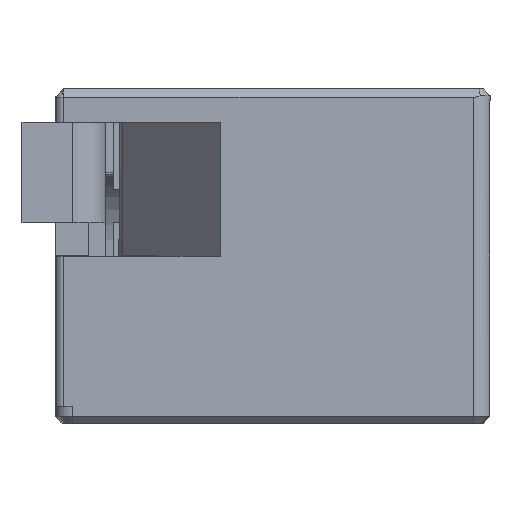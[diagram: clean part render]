
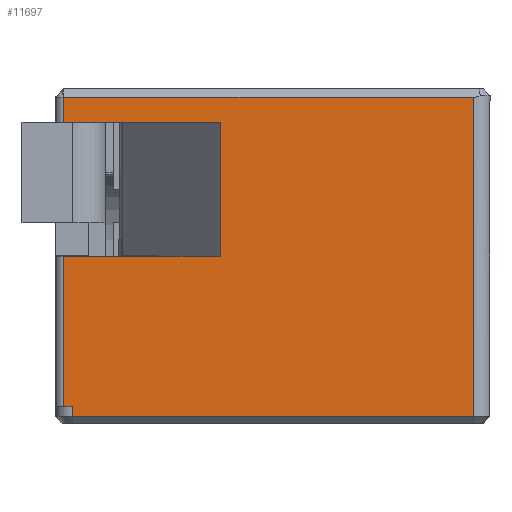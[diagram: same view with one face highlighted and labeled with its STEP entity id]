
A CAD part, left-side view. The second image highlights one B-rep face of the part: STEP entity #11697.
In plain terms, the highlighted planar face has unit normal (-1, 0, 0).
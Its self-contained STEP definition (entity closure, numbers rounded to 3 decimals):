
#681=LINE('',#17147,#1964);
#713=LINE('',#17223,#1996);
#751=LINE('',#17316,#2034);
#760=LINE('',#17330,#2043);
#852=LINE('',#17573,#2135);
#856=LINE('',#17589,#2139);
#1014=LINE('',#17951,#2297);
#1301=LINE('',#18571,#2584);
#1302=LINE('',#18575,#2585);
#1379=LINE('',#18781,#2662);
#1380=LINE('',#18783,#2663);
#1381=LINE('',#18784,#2664);
#1964=VECTOR('',#13878,10.);
#1996=VECTOR('',#13936,10.);
#2034=VECTOR('',#14000,10.);
#2043=VECTOR('',#14017,10.);
#2135=VECTOR('',#14247,10.);
#2139=VECTOR('',#14261,10.);
#2297=VECTOR('',#14615,10.);
#2584=VECTOR('',#15178,10.);
#2585=VECTOR('',#15183,10.);
#2662=VECTOR('',#15392,10.);
#2663=VECTOR('',#15393,10.);
#2664=VECTOR('',#15394,10.);
#3171=PLANE('',#12572);
#3727=FACE_OUTER_BOUND('',#4353,.T.);
#4353=EDGE_LOOP('',(#10183,#10184,#10185,#10186,#10187,#10188,#10189,#10190,
#10191,#10192,#10193,#10194));
#5205=VERTEX_POINT('',#17144);
#5206=VERTEX_POINT('',#17146);
#5236=VERTEX_POINT('',#17221);
#5237=VERTEX_POINT('',#17222);
#5279=VERTEX_POINT('',#17315);
#5359=VERTEX_POINT('',#17570);
#5363=VERTEX_POINT('',#17588);
#5469=VERTEX_POINT('',#17949);
#5664=VERTEX_POINT('',#18569);
#5665=VERTEX_POINT('',#18573);
#5718=VERTEX_POINT('',#18780);
#5719=VERTEX_POINT('',#18782);
#6444=EDGE_CURVE('',#5206,#5205,#681,.T.);
#6483=EDGE_CURVE('',#5236,#5237,#713,.T.);
#6527=EDGE_CURVE('',#5236,#5279,#751,.T.);
#6536=EDGE_CURVE('',#5205,#5279,#760,.T.);
#6657=EDGE_CURVE('',#5359,#5206,#852,.T.);
#6664=EDGE_CURVE('',#5359,#5363,#856,.T.);
#6846=EDGE_CURVE('',#5237,#5469,#1014,.T.);
#7165=EDGE_CURVE('',#5664,#5469,#1301,.T.);
#7167=EDGE_CURVE('',#5665,#5664,#1302,.T.);
#7263=EDGE_CURVE('',#5718,#5665,#1379,.T.);
#7264=EDGE_CURVE('',#5719,#5718,#1380,.T.);
#7265=EDGE_CURVE('',#5363,#5719,#1381,.T.);
#10183=ORIENTED_EDGE('',*,*,#7165,.F.);
#10184=ORIENTED_EDGE('',*,*,#7167,.F.);
#10185=ORIENTED_EDGE('',*,*,#7263,.F.);
#10186=ORIENTED_EDGE('',*,*,#7264,.F.);
#10187=ORIENTED_EDGE('',*,*,#7265,.F.);
#10188=ORIENTED_EDGE('',*,*,#6664,.F.);
#10189=ORIENTED_EDGE('',*,*,#6657,.T.);
#10190=ORIENTED_EDGE('',*,*,#6444,.T.);
#10191=ORIENTED_EDGE('',*,*,#6536,.T.);
#10192=ORIENTED_EDGE('',*,*,#6527,.F.);
#10193=ORIENTED_EDGE('',*,*,#6483,.T.);
#10194=ORIENTED_EDGE('',*,*,#6846,.T.);
#11697=ADVANCED_FACE('',(#3727),#3171,.T.);
#12572=AXIS2_PLACEMENT_3D('',#18779,#15390,#15391);
#13878=DIRECTION('',(0.,-1.,0.));
#13936=DIRECTION('',(0.,1.,0.));
#14000=DIRECTION('',(0.,0.,1.));
#14017=DIRECTION('',(0.,-1.,0.));
#14247=DIRECTION('',(0.,0.,-1.));
#14261=DIRECTION('',(0.,-1.,0.));
#14615=DIRECTION('',(0.,1.,0.));
#15178=DIRECTION('',(0.,0.,1.));
#15183=DIRECTION('',(0.,1.,0.));
#15390=DIRECTION('center_axis',(-1.,0.,0.));
#15391=DIRECTION('ref_axis',(0.,0.,
1.));
#15392=DIRECTION('',(0.,0.,1.));
#15393=DIRECTION('',(0.,1.,0.));
#15394=DIRECTION('',(0.,0.,-1.));
#17144=CARTESIAN_POINT('',(-14.773,29.559,29.572));
#17146=CARTESIAN_POINT('',(-14.773,38.909,29.572));
#17147=CARTESIAN_POINT('',(-14.773,35.659,29.572));
#17221=CARTESIAN_POINT('',(-14.773,29.509,21.572));
#17222=CARTESIAN_POINT('',(-14.773,29.559,21.572));
#17223=CARTESIAN_POINT('',(-14.773,28.209,21.572));
#17315=CARTESIAN_POINT('',(-14.773,29.509,29.572));
#17316=CARTESIAN_POINT('',(-14.773,29.509,21.572));
#17330=CARTESIAN_POINT('',(-14.773,35.659,29.572));
#17570=CARTESIAN_POINT('',(-14.773,38.909,31.072));
#17573=CARTESIAN_POINT('',(-14.773,38.909,31.572));
#17588=CARTESIAN_POINT('',(-14.773,14.409,31.072));
#17589=CARTESIAN_POINT('',(-14.773,32.909,31.072));
#17949=CARTESIAN_POINT('',(-14.773,38.909,21.572));
#17951=CARTESIAN_POINT('',(-14.773,28.209,21.572));
#18569=CARTESIAN_POINT('',(-14.773,38.909,12.572));
#18571=CARTESIAN_POINT('',(-14.773,38.909,11.572));
#18573=CARTESIAN_POINT('',(-14.773,38.409,12.572));
#18575=CARTESIAN_POINT('',(-14.773,28.209,12.572));
#18779=CARTESIAN_POINT('Origin',(-14.773,39.409,11.572));
#18780=CARTESIAN_POINT('',(-14.773,38.409,11.972));
#18781=CARTESIAN_POINT('',(-14.773,38.409,11.572));
#18782=CARTESIAN_POINT('',(-14.773,14.409,11.972));
#18783=CARTESIAN_POINT('',(-14.773,32.909,11.972));
#18784=CARTESIAN_POINT('',(-14.773,14.409,11.572));
